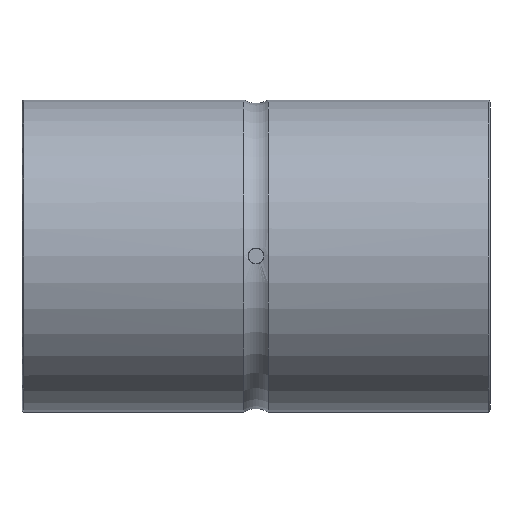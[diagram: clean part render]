
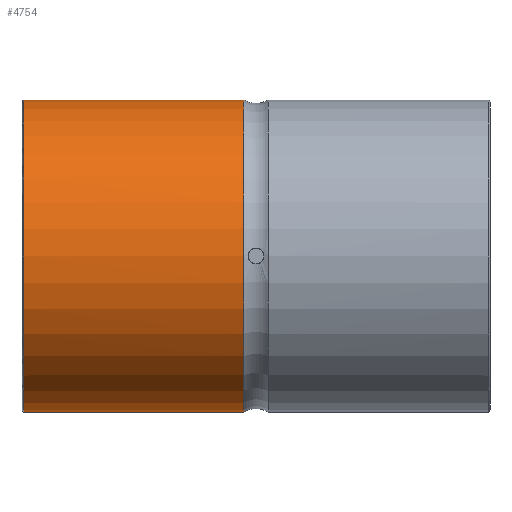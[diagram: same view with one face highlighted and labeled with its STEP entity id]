
A CAD part, front view. The second image highlights one B-rep face of the part: STEP entity #4754.
In plain terms, the highlighted cylindrical face has radius 30 mm (diameter 60 mm), a full revolution.
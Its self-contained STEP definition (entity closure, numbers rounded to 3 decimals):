
#23=B_SPLINE_CURVE_WITH_KNOTS('',3,(#7562,#7563,#7564,#7565,#7566,#7567,
#7568),.UNSPECIFIED.,.F.,.F.,(4,1,1,1,4),(0.,0.004,0.008,
0.012,0.016),.UNSPECIFIED.);
#396=LINE('',#7571,#886);
#397=LINE('',#7572,#887);
#886=VECTOR('',#6083,1000.);
#887=VECTOR('',#6084,1000.);
#1692=ORIENTED_EDGE('',*,*,#2915,.T.);
#1693=ORIENTED_EDGE('',*,*,#2916,.T.);
#1694=ORIENTED_EDGE('',*,*,#2908,.F.);
#1695=ORIENTED_EDGE('',*,*,#2917,.T.);
#1696=ORIENTED_EDGE('',*,*,#2914,.T.);
#2908=EDGE_CURVE('',#3520,#3521,#3891,.T.);
#2914=EDGE_CURVE('',#3526,#3526,#3893,.T.);
#2915=EDGE_CURVE('',#3527,#3528,#23,.T.);
#2916=EDGE_CURVE('',#3528,#3521,#396,.T.);
#2917=EDGE_CURVE('',#3520,#3527,#397,.F.);
#3520=VERTEX_POINT('',#7519);
#3521=VERTEX_POINT('',#7520);
#3526=VERTEX_POINT('',#7560);
#3527=VERTEX_POINT('',#7569);
#3528=VERTEX_POINT('',#7570);
#3891=CIRCLE('',#5185,30.);
#3893=CIRCLE('',#5188,30.);
#4055=EDGE_LOOP('',(#1692,#1693,#1694,#1695));
#4056=EDGE_LOOP('',(#1696));
#4363=FACE_BOUND('',#4055,.T.);
#4364=FACE_BOUND('',#4056,.T.);
#4627=CYLINDRICAL_SURFACE('',#5189,30.);
#4754=ADVANCED_FACE('',(#4363,#4364),#4627,.T.);
#5185=AXIS2_PLACEMENT_3D('',#7518,#6073,#6074);
#5188=AXIS2_PLACEMENT_3D('',#7559,#6079,#6080);
#5189=AXIS2_PLACEMENT_3D('',#7561,#6081,#6082);
#6073=DIRECTION('',(1.,0.,0.));
#6074=DIRECTION('',(0.,0.,-1.));
#6079=DIRECTION('',(1.,0.,0.));
#6080=DIRECTION('',(0.,0.,-1.));
#6081=DIRECTION('',(1.,0.,0.));
#6082=DIRECTION('',(0.,0.,-1.));
#6083=DIRECTION('',(1.,0.,0.));
#6084=DIRECTION('',(1.,0.,0.));
#7518=CARTESIAN_POINT('',(-2.33,0.,0.));
#7519=CARTESIAN_POINT('',(-2.33,29.58,5.));
#7520=CARTESIAN_POINT('',(-2.33,29.58,-5.));
#7559=CARTESIAN_POINT('',(-44.71,0.,0.));
#7560=CARTESIAN_POINT('',(-44.71,0.,-30.));
#7561=CARTESIAN_POINT('',(45.,0.,0.));
#7562=CARTESIAN_POINT('',(-22.5,29.58,5.));
#7563=CARTESIAN_POINT('',(-23.824,29.58,5.));
#7564=CARTESIAN_POINT('',(-26.41,29.792,3.916));
#7565=CARTESIAN_POINT('',(-28.044,30.104,0.006));
#7566=CARTESIAN_POINT('',(-26.413,29.792,-3.916));
#7567=CARTESIAN_POINT('',(-23.824,29.58,-5.));
#7568=CARTESIAN_POINT('',(-22.5,29.58,-5.));
#7569=CARTESIAN_POINT('',(-22.5,29.58,5.));
#7570=CARTESIAN_POINT('',(-22.5,29.58,-5.));
#7571=CARTESIAN_POINT('',(45.,29.58,-5.));
#7572=CARTESIAN_POINT('',(45.,29.58,5.));
